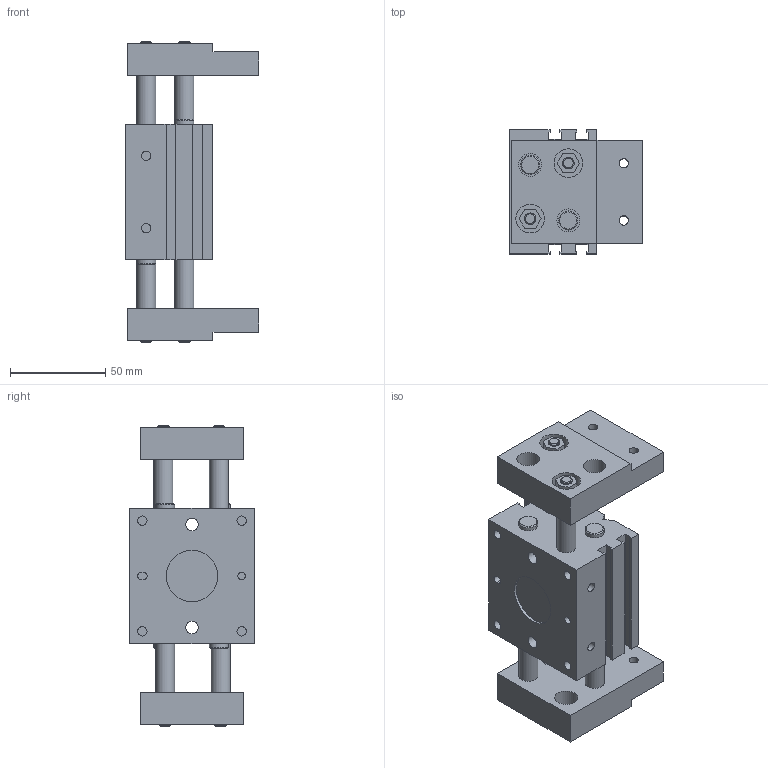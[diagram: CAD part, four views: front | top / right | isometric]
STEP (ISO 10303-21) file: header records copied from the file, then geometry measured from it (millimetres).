
FILE_DESCRIPTION((''),'2;1');
FILE_NAME('I:\Area Tecnica\Documenti\A-Mauro\_Inventor\LIBRERIE\6311\6311_#_D_#\631120D.stp','2007-02-24T10:55:37',('maffial1'),(''),'Autodesk Inventor 11','Autodesk Inventor 11','');
FILE_SCHEMA(('AUTOMOTIVE_DESIGN { 1 0 10303 214 1 1 1 1 }'));
Length unit declared in the file: millimetre
Products named in the file (3): 631120D; CORPO Ø20 D; DITO Ø20 D
Assembly tree (3 placements, depth 2):
  631120D
    CORPO Ø20 D
    DITO Ø20 D  x2
Bounding box: 70 x 65 x 158 mm (x, y, z)
Volume: 308359.9 mm3; surface area: 76985.3 mm2
Topology: 3 solids, 3 shells, 159 faces, 380 edges, 254 vertices
Faces by surface type: plane 101, bspline 34, cylinder 16, cone 8
Full cylindrical faces by diameter (mm): 4 x1, 6 x4, 10 x8, 27 x1
Entity records: 3542 total; most frequent: CARTESIAN_POINT 857, DIRECTION 502, ORIENTED_EDGE 496, EDGE_CURVE 248, VECTOR 188, LINE 188, EDGE_LOOP 186, VERTEX_POINT 184
